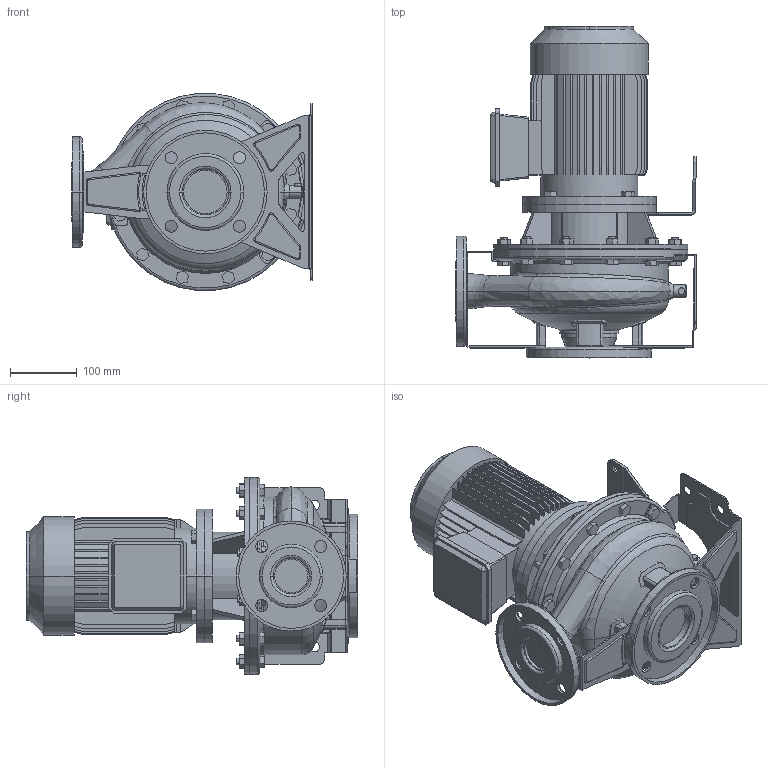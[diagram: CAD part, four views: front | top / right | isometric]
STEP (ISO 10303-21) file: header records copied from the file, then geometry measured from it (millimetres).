
FILE_DESCRIPTION((''),'2;1');
FILE_NAME('3S4_50-200_1_5_IE3_ASM','2016-09-23T',('rosa'),('"Ebara Pumps Europe +39.444.706811"'),'PRO/ENGINEER BY PARAMETRIC TECHNOLOGY CORPORATION, 2012130','PRO/ENGINEER BY PARAMETRIC TECHNOLOGY CORPORATION, 2012130','');
FILE_SCHEMA(('AUTOMOTIVE_DESIGN { 1 0 10303 214 1 1 1 1 }'));
Length unit declared in the file: millimetre
Products named in the file (11): MOTORE_90_1_1-1_5_KW_4POLI_B5; SUPPORTO_3S_230_90; SOSTEGNO_3S_72020; CORPO_50-200_AF0; ASP_50-200; FLANGIA_DIN_65; MAND_50-200; FLANGIA_DIN_50; BASE_3M_50-200; CORPO_SALDATO_50-200_ASM; 3S4_50-200_1_5_IE3_ASM
Assembly tree (10 placements, depth 3):
  3S4_50-200_1_5_IE3_ASM
    MOTORE_90_1_1-1_5_KW_4POLI_B5
    SUPPORTO_3S_230_90
    SOSTEGNO_3S_72020
    CORPO_SALDATO_50-200_ASM
      CORPO_50-200_AF0
      ASP_50-200
      FLANGIA_DIN_65
      MAND_50-200
      FLANGIA_DIN_50
      BASE_3M_50-200
Bounding box: 360 x 497 x 295.13 mm (x, y, z)
Volume: 12860888.2 mm3; surface area: 1357027.2 mm2
Topology: 12 solids, 12 shells, 1140 faces, 2929 edges, 1926 vertices
Faces by surface type: plane 716, cylinder 310, torus 54, bspline 30, cone 24, sphere 6
Entity records: 48077 total; most frequent: CARTESIAN_POINT 8986, DIRECTION 5980, ORIENTED_EDGE 5858, EDGE_CURVE 2929, PRESENTATION_STYLE_ASSIGNMENT 2800, STYLED_ITEM 2800, CURVE_STYLE 2789, AXIS2_PLACEMENT_3D 2013
